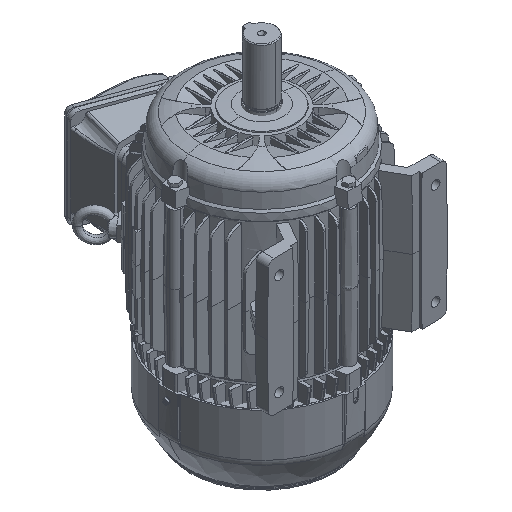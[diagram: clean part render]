
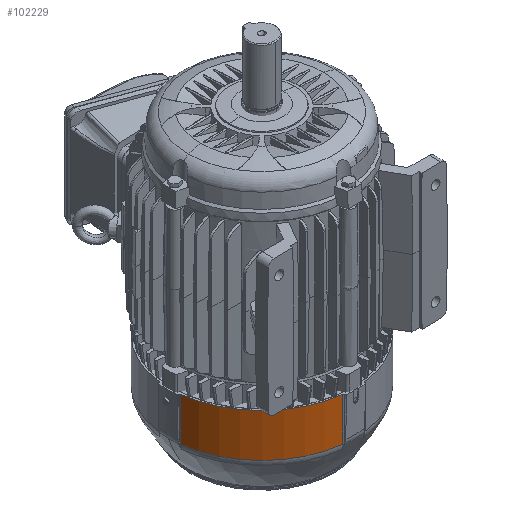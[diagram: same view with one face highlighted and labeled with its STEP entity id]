
A CAD part, isometric view. The second image highlights one B-rep face of the part: STEP entity #102229.
In plain terms, the highlighted cylindrical face has radius 127.75 mm (diameter 255.5 mm), a partial arc.
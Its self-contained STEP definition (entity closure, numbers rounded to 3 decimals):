
#2685 = CARTESIAN_POINT ( 'NONE',  ( -126.88, -14.883, -251.749 ) ) ;
#7290 = EDGE_CURVE ( 'NONE', #27024, #61111, #111831, .T. ) ;
#9031 = DIRECTION ( 'NONE',  ( 0., 0., -1. ) ) ;
#18144 = DIRECTION ( 'NONE',  ( 0., 0., -1. ) ) ;
#24528 = VERTEX_POINT ( 'NONE', #27777 ) ;
#27024 = VERTEX_POINT ( 'NONE', #59829 ) ;
#27777 = CARTESIAN_POINT ( 'NONE',  ( -126.88, -14.883, -121.8 ) ) ;
#28408 = EDGE_CURVE ( 'NONE', #24528, #114051, #90440, .T. ) ;
#31286 = ORIENTED_EDGE ( 'NONE', *, *, #49802, .T. ) ;
#31933 = EDGE_LOOP ( 'NONE', ( #35137, #66661, #31286, #99162 ) ) ;
#33822 = CARTESIAN_POINT ( 'NONE',  ( 0., 0., -181.532 ) ) ;
#35137 = ORIENTED_EDGE ( 'NONE', *, *, #115420, .T. ) ;
#37965 = FACE_OUTER_BOUND ( 'NONE', #31933, .T. ) ;
#38997 = DIRECTION ( 'NONE',  ( 0., 0., -1. ) ) ;
#42669 = VECTOR ( 'NONE', #38997, 1000. ) ;
#42866 = DIRECTION ( 'NONE',  ( 0., 1., 0. ) ) ;
#47473 = CARTESIAN_POINT ( 'NONE',  ( -14.883, -126.88, -121.8 ) ) ;
#49802 = EDGE_CURVE ( 'NONE', #61111, #24528, #116527, .T. ) ;
#54379 = CARTESIAN_POINT ( 'NONE',  ( 0., 0., -251.749 ) ) ;
#55596 = AXIS2_PLACEMENT_3D ( 'NONE', #33822, #96716, #42866 ) ;
#57837 = CARTESIAN_POINT ( 'NONE',  ( -14.883, -126.88, -251.749 ) ) ;
#59829 = CARTESIAN_POINT ( 'NONE',  ( -14.883, -126.88, -181.532 ) ) ;
#61111 = VERTEX_POINT ( 'NONE', #47473 ) ;
#63021 = CARTESIAN_POINT ( 'NONE',  ( 0., 0., -121.8 ) ) ;
#63391 = DIRECTION ( 'NONE',  ( 0., -1., 0. ) ) ;
#64012 = VECTOR ( 'NONE', #102550, 1000. ) ;
#66661 = ORIENTED_EDGE ( 'NONE', *, *, #7290, .T. ) ;
#72050 = DIRECTION ( 'NONE',  ( 0., -1., 0. ) ) ;
#82960 = CYLINDRICAL_SURFACE ( 'NONE', #116174, 127.75 ) ;
#83023 = AXIS2_PLACEMENT_3D ( 'NONE', #63021, #9031, #72050 ) ;
#84578 = CIRCLE ( 'NONE', #55596, 127.75 ) ;
#90440 = LINE ( 'NONE', #2685, #42669 ) ;
#96716 = DIRECTION ( 'NONE',  ( 0., 0., 1. ) ) ;
#99162 = ORIENTED_EDGE ( 'NONE', *, *, #28408, .T. ) ;
#101149 = CARTESIAN_POINT ( 'NONE',  ( -126.88, -14.883, -181.532 ) ) ;
#102229 = ADVANCED_FACE ( 'NONE', ( #37965 ), #82960, .T. ) ;
#102550 = DIRECTION ( 'NONE',  ( 0., 0., 1. ) ) ;
#111831 = LINE ( 'NONE', #57837, #64012 ) ;
#114051 = VERTEX_POINT ( 'NONE', #101149 ) ;
#115420 = EDGE_CURVE ( 'NONE', #114051, #27024, #84578, .T. ) ;
#116174 = AXIS2_PLACEMENT_3D ( 'NONE', #54379, #18144, #63391 ) ;
#116527 = CIRCLE ( 'NONE', #83023, 127.75 ) ;
